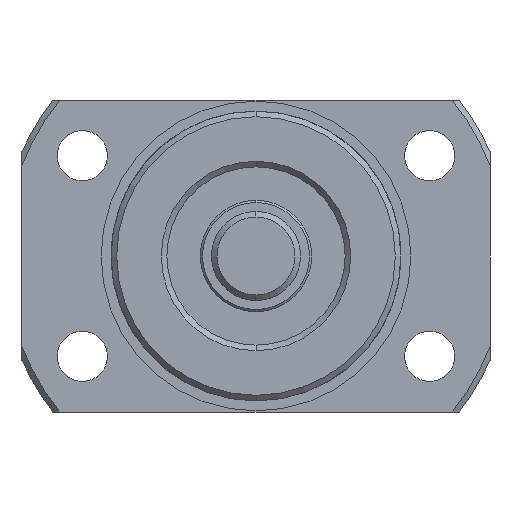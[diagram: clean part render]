
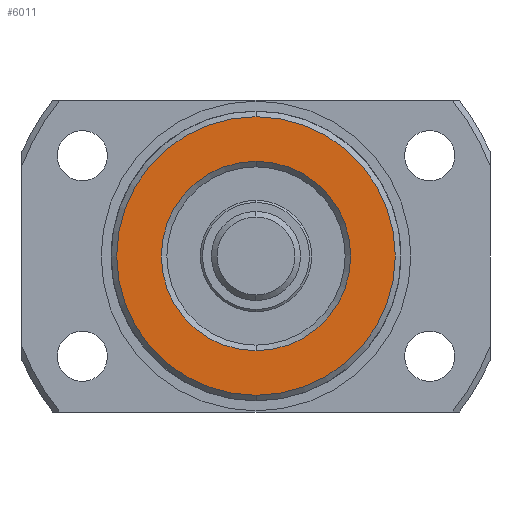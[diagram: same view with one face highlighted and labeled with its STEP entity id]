
A CAD part, left-side view. The second image highlights one B-rep face of the part: STEP entity #6011.
In plain terms, the highlighted planar face has unit normal (-1, 0, 0).
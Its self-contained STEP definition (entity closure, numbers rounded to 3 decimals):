
#1164 = CARTESIAN_POINT ( 'NONE',  ( -34., 0., 8.5 ) ) ;
#1330 = CARTESIAN_POINT ( 'NONE',  ( -34., 0., 12.5 ) ) ;
#1339 = CARTESIAN_POINT ( 'NONE',  ( -34., 0., -8.5 ) ) ;
#1361 = CARTESIAN_POINT ( 'NONE',  ( -34., 0., -12.5 ) ) ;
#1553 = DIRECTION ( 'NONE',  ( -1., 0., 0. ) ) ;
#1562 = DIRECTION ( 'NONE',  ( 0., 0., 1. ) ) ;
#1564 = CARTESIAN_POINT ( 'NONE',  ( -34., 0., 0. ) ) ;
#1676 = CARTESIAN_POINT ( 'NONE',  ( -34., 0., 0. ) ) ;
#1707 = DIRECTION ( 'NONE',  ( 0., 0., 1. ) ) ;
#1745 = DIRECTION ( 'NONE',  ( -1., 0., 0. ) ) ;
#2067 = EDGE_LOOP ( 'NONE', ( #5614, #5616 ) ) ;
#2154 = PLANE ( 'NONE',  #4902 ) ;
#2159 = CARTESIAN_POINT ( 'NONE',  ( -34., 12.5, 0. ) ) ;
#2164 = DIRECTION ( 'NONE',  ( 1., 0., 0. ) ) ;
#2215 = CIRCLE ( 'NONE', #4795, 8.5 ) ;
#2216 = CIRCLE ( 'NONE', #4792, 12.5 ) ;
#2446 = CIRCLE ( 'NONE', #4747, 8.5 ) ;
#2480 = EDGE_CURVE ( 'NONE', #5563, #5553, #2674, .T. ) ;
#2557 = EDGE_CURVE ( 'NONE', #5514, #5765, #2446, .T. ) ;
#2674 = CIRCLE ( 'NONE', #4716, 12.5 ) ;
#3173 = FACE_BOUND ( 'NONE', #2067, .T. ) ;
#3177 = FACE_OUTER_BOUND ( 'NONE', #3689, .T. ) ;
#3689 = EDGE_LOOP ( 'NONE', ( #5587, #5635 ) ) ;
#3942 = DIRECTION ( 'NONE',  ( 0., 0., -1. ) ) ;
#4521 = EDGE_CURVE ( 'NONE', #5553, #5563, #2216, .T. ) ;
#4526 = EDGE_CURVE ( 'NONE', #5765, #5514, #2215, .T. ) ;
#4716 = AXIS2_PLACEMENT_3D ( 'NONE', #1676, #1745, #1707 ) ;
#4747 = AXIS2_PLACEMENT_3D ( 'NONE', #1564, #1553, #1562 ) ;
#4792 = AXIS2_PLACEMENT_3D ( 'NONE', #6137, #6144, #6136 ) ;
#4795 = AXIS2_PLACEMENT_3D ( 'NONE', #6152, #6154, #6149 ) ;
#4902 = AXIS2_PLACEMENT_3D ( 'NONE', #2159, #2164, #3942 ) ;
#5514 = VERTEX_POINT ( 'NONE', #1339 ) ;
#5553 = VERTEX_POINT ( 'NONE', #1361 ) ;
#5563 = VERTEX_POINT ( 'NONE', #1330 ) ;
#5587 = ORIENTED_EDGE ( 'NONE', *, *, #4521, .T. ) ;
#5614 = ORIENTED_EDGE ( 'NONE', *, *, #4526, .F. ) ;
#5616 = ORIENTED_EDGE ( 'NONE', *, *, #2557, .F. ) ;
#5635 = ORIENTED_EDGE ( 'NONE', *, *, #2480, .T. ) ;
#5765 = VERTEX_POINT ( 'NONE', #1164 ) ;
#6011 = ADVANCED_FACE ( 'NONE', ( #3173, #3177 ), #2154, .F. ) ;
#6136 = DIRECTION ( 'NONE',  ( 0., 0., 1. ) ) ;
#6137 = CARTESIAN_POINT ( 'NONE',  ( -34., 0., 0. ) ) ;
#6144 = DIRECTION ( 'NONE',  ( -1., 0., 0. ) ) ;
#6149 = DIRECTION ( 'NONE',  ( 0., 0., 1. ) ) ;
#6152 = CARTESIAN_POINT ( 'NONE',  ( -34., 0., 0. ) ) ;
#6154 = DIRECTION ( 'NONE',  ( -1., 0., 0. ) ) ;
